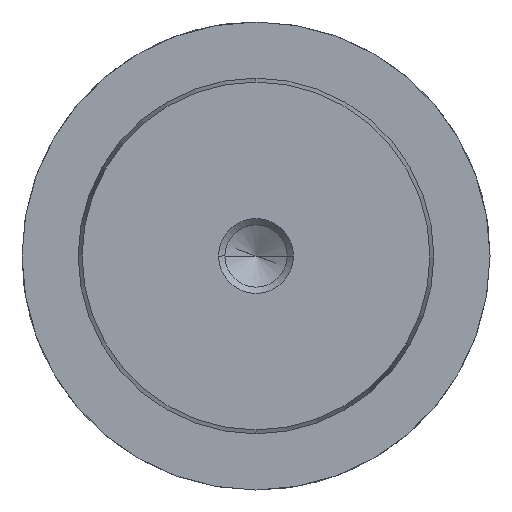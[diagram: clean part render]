
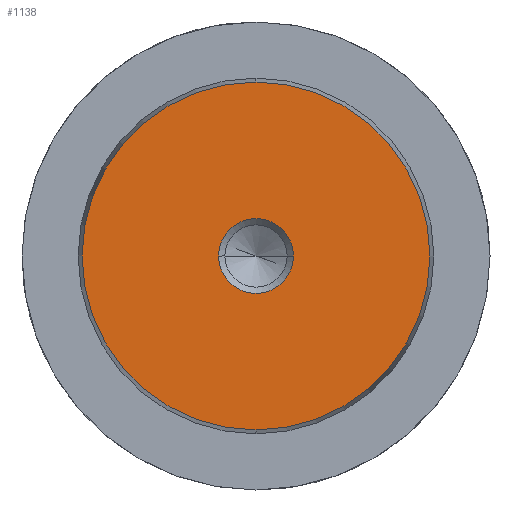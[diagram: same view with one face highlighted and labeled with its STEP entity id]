
A CAD part, left-side view. The second image highlights one B-rep face of the part: STEP entity #1138.
In plain terms, the highlighted planar face has unit normal (-1, 0, 0).
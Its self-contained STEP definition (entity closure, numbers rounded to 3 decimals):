
#1052=CARTESIAN_POINT('Vertex',(0.,0.,-18.578)) ;
#1055=CARTESIAN_POINT('Axis2P3D Location',(0.,0.,0.)) ;
#1059=CARTESIAN_POINT('Vertex',(0.,18.578,0.)) ;
#1062=CARTESIAN_POINT('Axis2P3D Location',(0.,0.,0.)) ;
#1066=CARTESIAN_POINT('Vertex',(0.,0.,18.578)) ;
#1088=CARTESIAN_POINT('Axis2P3D Location',(0.,0.,0.)) ;
#1092=CARTESIAN_POINT('Vertex',(0.,-18.578,0.)) ;
#1095=CARTESIAN_POINT('Axis2P3D Location',(0.,0.,0.)) ;
#1109=CARTESIAN_POINT('Axis2P3D Location',(0.,0.,0.)) ;
#1120=CARTESIAN_POINT('Axis2P3D Location',(0.,0.,0.)) ;
#1124=CARTESIAN_POINT('Vertex',(0.,4.,0.)) ;
#1126=CARTESIAN_POINT('Vertex',(0.,-4.,0.)) ;
#1129=CARTESIAN_POINT('Axis2P3D Location',(0.,0.,0.)) ;
#1056=DIRECTION('Axis2P3D Direction',(1.,-0.,0.)) ;
#1063=DIRECTION('Axis2P3D Direction',(1.,-0.,0.)) ;
#1089=DIRECTION('Axis2P3D Direction',(1.,0.,-0.)) ;
#1096=DIRECTION('Axis2P3D Direction',(1.,0.,-0.)) ;
#1110=DIRECTION('Axis2P3D Direction',(1.,0.,-0.)) ;
#1111=DIRECTION('Axis2P3D XDirection',(-0.,0.,-1.)) ;
#1121=DIRECTION('Axis2P3D Direction',(1.,0.,-0.)) ;
#1130=DIRECTION('Axis2P3D Direction',(1.,0.,-0.)) ;
#1057=AXIS2_PLACEMENT_3D('Circle Axis2P3D',#1055,#1056,$) ;
#1064=AXIS2_PLACEMENT_3D('Circle Axis2P3D',#1062,#1063,$) ;
#1090=AXIS2_PLACEMENT_3D('Circle Axis2P3D',#1088,#1089,$) ;
#1097=AXIS2_PLACEMENT_3D('Circle Axis2P3D',#1095,#1096,$) ;
#1112=AXIS2_PLACEMENT_3D('Plane Axis2P3D',#1109,#1110,#1111) ;
#1122=AXIS2_PLACEMENT_3D('Circle Axis2P3D',#1120,#1121,$) ;
#1131=AXIS2_PLACEMENT_3D('Circle Axis2P3D',#1129,#1130,$) ;
#1115=ORIENTED_EDGE('',*,*,#1061,.F.) ;
#1116=ORIENTED_EDGE('',*,*,#1099,.F.) ;
#1117=ORIENTED_EDGE('',*,*,#1094,.F.) ;
#1118=ORIENTED_EDGE('',*,*,#1068,.F.) ;
#1135=ORIENTED_EDGE('',*,*,#1128,.T.) ;
#1136=ORIENTED_EDGE('',*,*,#1133,.T.) ;
#1137=FACE_BOUND('',#1134,.T.) ;
#1138=ADVANCED_FACE('719-38x160',(#1119,#1137),#1113,.F.) ;
#1058=CIRCLE('generated circle',#1057,18.578) ;
#1065=CIRCLE('generated circle',#1064,18.578) ;
#1091=CIRCLE('generated circle',#1090,18.578) ;
#1098=CIRCLE('generated circle',#1097,18.578) ;
#1123=CIRCLE('generated circle',#1122,4.) ;
#1132=CIRCLE('generated circle',#1131,4.) ;
#1061=EDGE_CURVE('',#1053,#1060,#1058,.T.) ;
#1068=EDGE_CURVE('',#1060,#1067,#1065,.T.) ;
#1094=EDGE_CURVE('',#1067,#1093,#1091,.T.) ;
#1099=EDGE_CURVE('',#1093,#1053,#1098,.T.) ;
#1128=EDGE_CURVE('',#1125,#1127,#1123,.T.) ;
#1133=EDGE_CURVE('',#1127,#1125,#1132,.T.) ;
#1114=EDGE_LOOP('',(#1115,#1116,#1117,#1118)) ;
#1134=EDGE_LOOP('',(#1135,#1136)) ;
#1119=FACE_OUTER_BOUND('',#1114,.T.) ;
#1113=PLANE('Plane',#1112) ;
#1053=VERTEX_POINT('',#1052) ;
#1060=VERTEX_POINT('',#1059) ;
#1067=VERTEX_POINT('',#1066) ;
#1093=VERTEX_POINT('',#1092) ;
#1125=VERTEX_POINT('',#1124) ;
#1127=VERTEX_POINT('',#1126) ;
